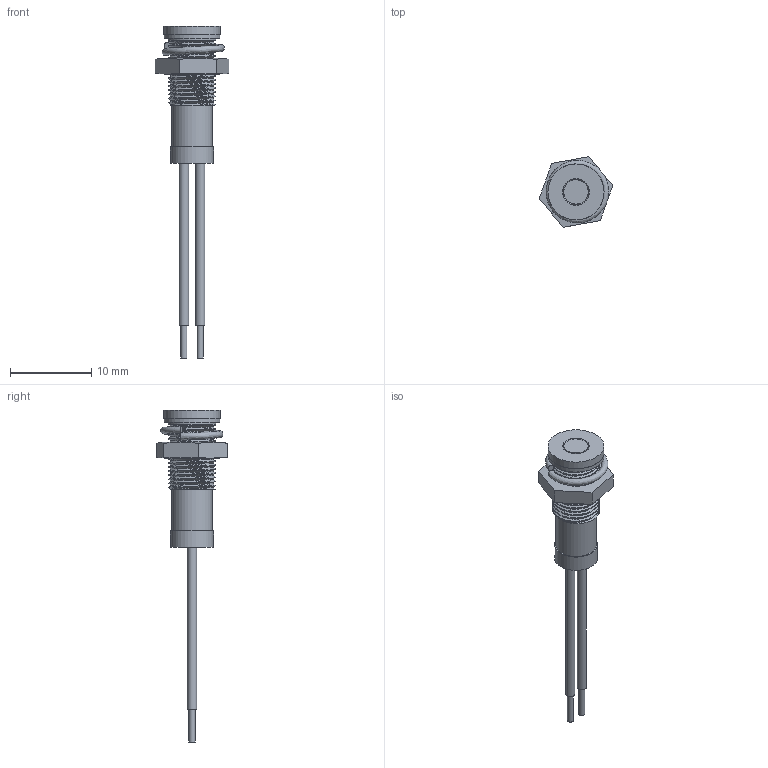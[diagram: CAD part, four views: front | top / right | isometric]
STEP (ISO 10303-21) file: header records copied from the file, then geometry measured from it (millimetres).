
FILE_DESCRIPTION(/* description */ ('AdapterTestApp'),/* implementation_level */ '2;1');
FILE_NAME(/* name */ 'Q6F7C-short 2 wires',/* time_stamp */ '2017-11-20T12:04:57+00:00',/* author */ ('AdapterTestApp'),/* organization */ ('Siemens PLM Software'),/* preprocessor_version */ 'ST-DEVELOPER v15.6',/* originating_system */ 'DEX',/* authorisation */ $);
FILE_SCHEMA (('AUTOMOTIVE_DESIGN {1 0 10303 214 3 1 1}'));
Length unit declared in the file: millimetre
Products named in the file (10): Q6F7C-short 2 wires; 14-0125iss5; 3mmLED-1; 26-0047; 34-0082; 21-0025; 13-0035; wire-black-short; wire-red short; 3mmLED-flush-cut
Assembly tree (9 placements, depth 2):
  Q6F7C-short 2 wires
    14-0125iss5
    3mmLED-1
    26-0047
    34-0082
    21-0025
    13-0035
    wire-black-short
    wire-red short
    3mmLED-flush-cut
Bounding box: 9.09 x 8.7 x 40.9 mm (x, y, z)
Volume: 438.5 mm3; surface area: 1499.8 mm2
Topology: 9 solids, 9 shells, 134 faces, 313 edges, 209 vertices
Faces by surface type: plane 80, cylinder 33, cone 12, bspline 6, torus 2, sphere 1
Full cylindrical faces by diameter (mm): 0.75 x4, 1.15 x2, 1.3 x2, 2.9 x1, 3 x1, 3.1 x1, 3.4 x1, 4.225 x1, 4.3 x1, 5 x1, 5.3 x1, 5.75 x1, 5.9 x1, 6.9 x2
Entity records: 8164 total; most frequent: CARTESIAN_POINT 5090, DIRECTION 589, ORIENTED_EDGE 552, EDGE_CURVE 276, AXIS2_PLACEMENT_3D 229, VERTEX_POINT 198, EDGE_LOOP 182, FACE_BOUND 182
